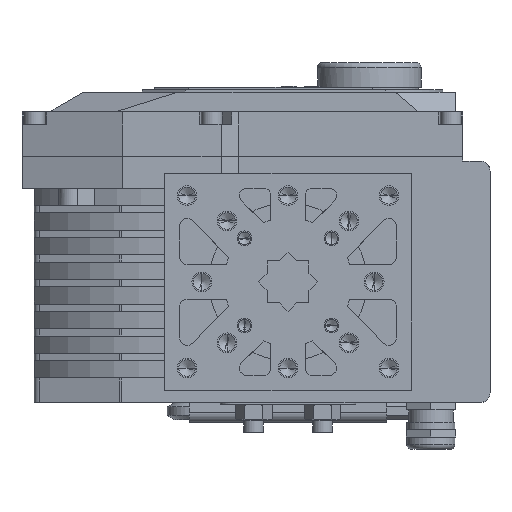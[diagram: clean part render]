
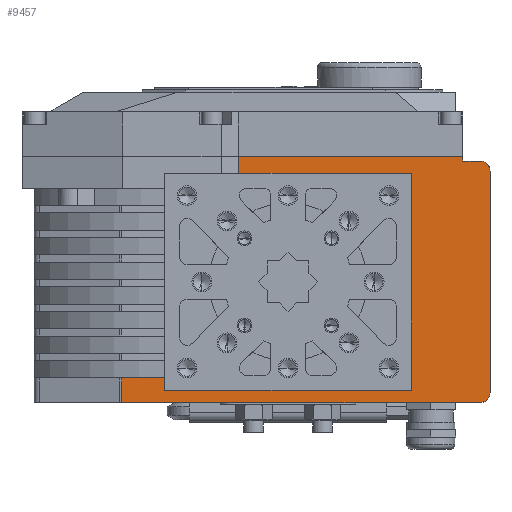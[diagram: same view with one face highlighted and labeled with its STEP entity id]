
A CAD part, front view. The second image highlights one B-rep face of the part: STEP entity #9457.
In plain terms, the highlighted planar face has unit normal (0, -1, 0).
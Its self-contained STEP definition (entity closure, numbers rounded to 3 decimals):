
#2780=DIRECTION('',(1.,0.,0.));
#2781=VECTOR('',#2780,145.5);
#2782=CARTESIAN_POINT('',(-62.,-38.,0.));
#2783=LINE('',#2782,#2781);
#3630=DIRECTION('',(1.,0.,0.));
#3631=VECTOR('',#3630,7.);
#3632=CARTESIAN_POINT('',(-62.,-38.,-98.));
#3633=LINE('',#3632,#3631);
#3891=DIRECTION('',(0.,0.,1.));
#3892=VECTOR('',#3891,7.);
#3893=CARTESIAN_POINT('',(36.,-38.,-100.));
#3894=LINE('',#3893,#3892);
#3895=CARTESIAN_POINT('',(-62.,-38.,-94.));
#3896=DIRECTION('',(0.,-1.,0.));
#3897=DIRECTION('',(-1.,0.,0.));
#3898=AXIS2_PLACEMENT_3D('',#3895,#3896,#3897);
#3900=DIRECTION('',(0.,0.,-1.));
#3901=VECTOR('',#3900,90.);
#3902=CARTESIAN_POINT('',(-66.,-38.,-4.));
#3903=LINE('',#3902,#3901);
#3904=CARTESIAN_POINT('',(-62.,-38.,-4.));
#3905=DIRECTION('',(0.,-1.,0.));
#3906=DIRECTION('',(0.,0.,1.));
#3907=AXIS2_PLACEMENT_3D('',#3904,#3905,#3906);
#3909=DIRECTION('',(0.,0.,1.));
#3910=VECTOR('',#3909,10.);
#3911=CARTESIAN_POINT('',(83.5,-38.,-10.));
#3912=LINE('',#3911,#3910);
#3913=DIRECTION('',(-1.,0.,0.));
#3914=VECTOR('',#3913,17.5);
#3915=CARTESIAN_POINT('',(83.5,-38.,-10.));
#3916=LINE('',#3915,#3914);
#3917=DIRECTION('',(0.,0.,1.));
#3918=VECTOR('',#3917,5.);
#3919=CARTESIAN_POINT('',(66.,-38.,-10.));
#3920=LINE('',#3919,#3918);
#3921=DIRECTION('',(-1.,0.,0.));
#3922=VECTOR('',#3921,100.);
#3923=CARTESIAN_POINT('',(66.,-38.,-5.));
#3924=LINE('',#3923,#3922);
#3925=DIRECTION('',(0.,0.,-1.));
#3926=VECTOR('',#3925,88.);
#3927=CARTESIAN_POINT('',(-34.,-38.,-5.));
#3928=LINE('',#3927,#3926);
#3929=DIRECTION('',(1.,0.,0.));
#3930=VECTOR('',#3929,70.);
#3931=CARTESIAN_POINT('',(-34.,-38.,-93.));
#3932=LINE('',#3931,#3930);
#3981=DIRECTION('',(-1.,0.,0.));
#3982=VECTOR('',#3981,91.);
#3983=CARTESIAN_POINT('',(36.,-38.,-100.));
#3984=LINE('',#3983,#3982);
#5669=DIRECTION('',(0.,0.,-1.));
#5670=VECTOR('',#5669,2.);
#5671=CARTESIAN_POINT('',(-55.,-38.,-98.));
#5672=LINE('',#5671,#5670);
#6934=CARTESIAN_POINT('',(-55.,-38.,-100.));
#6936=VERTEX_POINT('',#6934);
#6938=CARTESIAN_POINT('',(-55.,-38.,-98.));
#6940=VERTEX_POINT('',#6938);
#6942=CARTESIAN_POINT('',(-62.,-38.,0.));
#6943=CARTESIAN_POINT('',(-66.,-38.,-4.));
#6944=VERTEX_POINT('',#6942);
#6945=VERTEX_POINT('',#6943);
#6954=CARTESIAN_POINT('',(-66.,-38.,-94.));
#6955=CARTESIAN_POINT('',(-62.,-38.,-98.));
#6956=VERTEX_POINT('',#6954);
#6957=VERTEX_POINT('',#6955);
#6982=CARTESIAN_POINT('',(83.5,-38.,0.));
#6984=VERTEX_POINT('',#6982);
#7138=CARTESIAN_POINT('',(83.5,-38.,-10.));
#7139=VERTEX_POINT('',#7138);
#7202=CARTESIAN_POINT('',(-34.,-38.,-5.));
#7203=CARTESIAN_POINT('',(-34.,-38.,-93.));
#7204=VERTEX_POINT('',#7202);
#7205=VERTEX_POINT('',#7203);
#7222=CARTESIAN_POINT('',(66.,-38.,-5.));
#7223=VERTEX_POINT('',#7222);
#7224=CARTESIAN_POINT('',(66.,-38.,-10.));
#7225=VERTEX_POINT('',#7224);
#8162=CARTESIAN_POINT('',(36.,-38.,-100.));
#8163=CARTESIAN_POINT('',(36.,-38.,-93.));
#8164=VERTEX_POINT('',#8162);
#8165=VERTEX_POINT('',#8163);
#9426=CARTESIAN_POINT('',(-66.,-38.,0.));
#9427=DIRECTION('',(0.,-1.,0.));
#9428=DIRECTION('',(1.,0.,0.));
#9429=AXIS2_PLACEMENT_3D('',#9426,#9427,#9428);
#9430=PLANE('',#9429);
#9432=ORIENTED_EDGE('',*,*,#9431,.F.);
#9434=ORIENTED_EDGE('',*,*,#9433,.T.);
#9436=ORIENTED_EDGE('',*,*,#9435,.F.);
#9437=ORIENTED_EDGE('',*,*,#9120,.F.);
#9439=ORIENTED_EDGE('',*,*,#9438,.F.);
#9441=ORIENTED_EDGE('',*,*,#9440,.F.);
#9442=ORIENTED_EDGE('',*,*,#9307,.F.);
#9443=ORIENTED_EDGE('',*,*,#8237,.T.);
#9445=ORIENTED_EDGE('',*,*,#9444,.F.);
#9446=ORIENTED_EDGE('',*,*,#8443,.T.);
#9448=ORIENTED_EDGE('',*,*,#9447,.T.);
#9450=ORIENTED_EDGE('',*,*,#9449,.T.);
#9452=ORIENTED_EDGE('',*,*,#9451,.T.);
#9454=ORIENTED_EDGE('',*,*,#9453,.T.);
#9455=EDGE_LOOP('',(#9432,#9434,#9436,#9437,#9439,#9441,#9442,#9443,#9445,#9446,
#9448,#9450,#9452,#9454));
#9456=FACE_OUTER_BOUND('',#9455,.F.);
#9457=ADVANCED_FACE('',(#9456),#9430,.T.);
#3899=CIRCLE('',#3898,4.);
#3908=CIRCLE('',#3907,4.);
#8237=EDGE_CURVE('',#6944,#6984,#2783,.T.);
#8443=EDGE_CURVE('',#7139,#7225,#3916,.T.);
#9120=EDGE_CURVE('',#6957,#6940,#3633,.T.);
#9307=EDGE_CURVE('',#6944,#6945,#3908,.T.);
#9431=EDGE_CURVE('',#8164,#8165,#3894,.T.);
#9433=EDGE_CURVE('',#8164,#6936,#3984,.T.);
#9435=EDGE_CURVE('',#6940,#6936,#5672,.T.);
#9438=EDGE_CURVE('',#6956,#6957,#3899,.T.);
#9440=EDGE_CURVE('',#6945,#6956,#3903,.T.);
#9444=EDGE_CURVE('',#7139,#6984,#3912,.T.);
#9447=EDGE_CURVE('',#7225,#7223,#3920,.T.);
#9449=EDGE_CURVE('',#7223,#7204,#3924,.T.);
#9451=EDGE_CURVE('',#7204,#7205,#3928,.T.);
#9453=EDGE_CURVE('',#7205,#8165,#3932,.T.);
